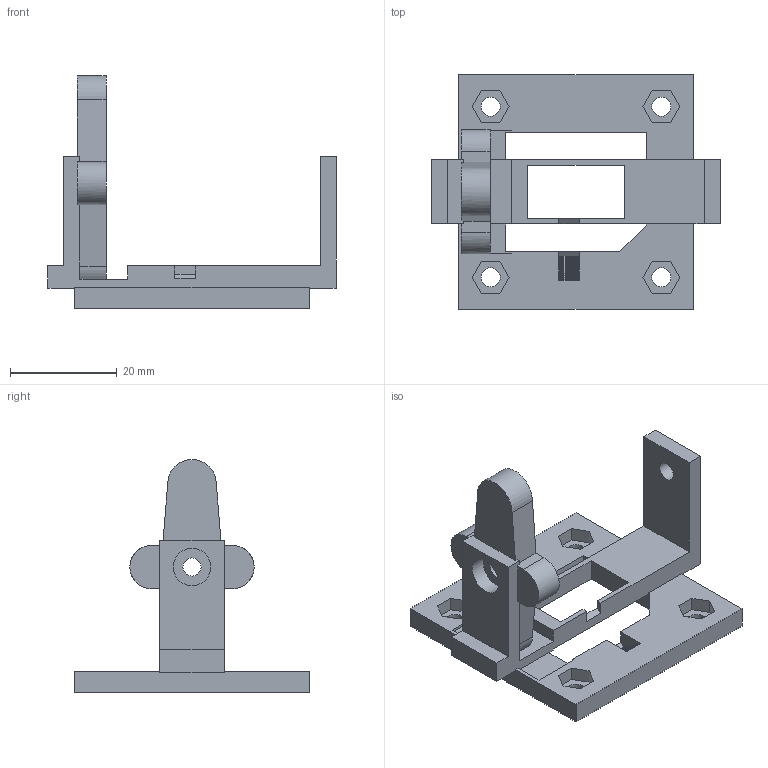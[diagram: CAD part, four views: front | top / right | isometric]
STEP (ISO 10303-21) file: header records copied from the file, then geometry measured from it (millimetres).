
FILE_DESCRIPTION(('FreeCAD Model'),'2;1');
FILE_NAME('Open CASCADE Shape Model','2026-10-30T13:01:49',('FreeCAD'),( 'FreeCAD'),'Open CASCADE STEP processor 7.8','FreeCAD','Unknown');
FILE_SCHEMA(('AUTOMOTIVE_DESIGN { 1 0 10303 214 1 1 1 1 }'));
Length unit declared in the file: millimetre
Products named in the file (1): Open CASCADE STEP translator 7.8 2
Bounding box: 54 x 44 x 43.65 mm (x, y, z)
Volume: 9635.7 mm3; surface area: 7786.6 mm2
Topology: 1 solids, 1 shells, 155 faces, 458 edges, 308 vertices
Faces by surface type: plane 137, cylinder 18
Full cylindrical faces by diameter (mm): 3.4 x1, 3.6 x5, 7 x1, 7.65 x1
Entity records: 5166 total; most frequent: CARTESIAN_POINT 924, ORIENTED_EDGE 916, DIRECTION 814, EDGE_CURVE 458, LINE 410, VECTOR 410, VERTEX_POINT 308, AXIS2_PLACEMENT_3D 202
